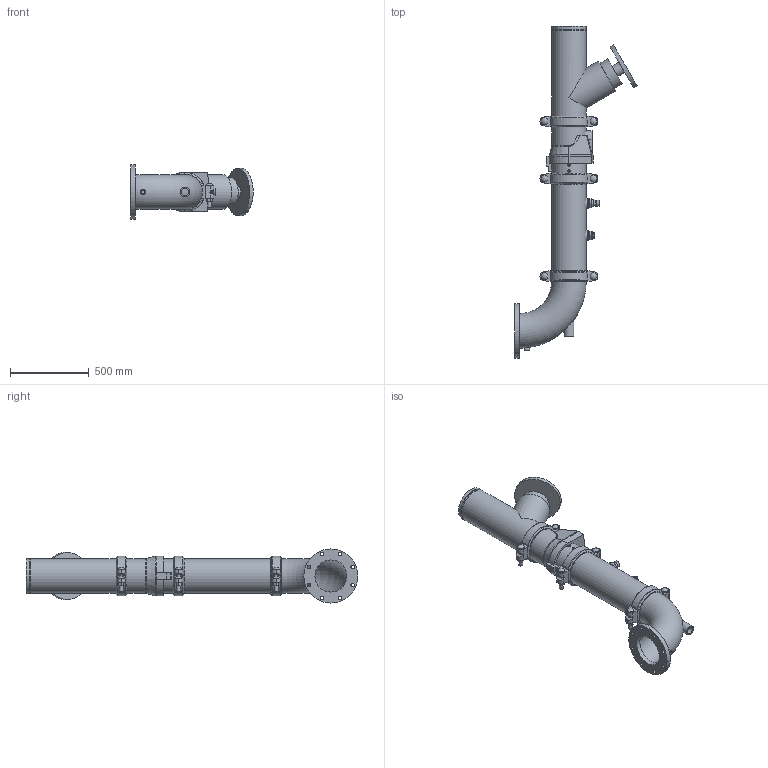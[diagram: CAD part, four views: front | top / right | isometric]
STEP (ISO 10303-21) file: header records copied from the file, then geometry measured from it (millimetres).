
FILE_DESCRIPTION(/* description */ ('VIC DVI PUMP DROP HORZ S/383 (OGSxFLG) (S/924-0.75)','CAx-IF Rec.Pracs.---Representation and Presentation of Product Manufacturing Information (PMI)---4.0---2014-10-13'),/* implementation_level */ '2;1');
FILE_NAME(/* name */ 'C:\Users\kkamble\AppData\Roaming\Autodesk\ApplicationPlugins\Victaulic.Temp\A821\CL 150_Series 383 (OGSxFLG)_924 (0.75)_08.0x08.0 (200x200).stp',/* time_stamp */ '2022-03-16T18:47:19+05:00',/* author */ ('kkamble'),/* organization */ ('Victaulic'),/* preprocessor_version */ 'ST-DEVELOPER v17.2',/* originating_system */ 'Autodesk Inventor 2019',/* authorisation */ '');
FILE_SCHEMA (('AP242_MANAGED_MODEL_BASED_3D_ENGINEERING_MIM_LF { 1 0 10303 442 1 1 4 }'));
Length unit declared in the file: inch
Products named in the file (8): 383_924 (0.75)-08.0x08.0; Pipe-08.0; 789-08.0; 177N-08.0; 779-08.0; 924-04.0x0.75; 923-04.0x0.75; 100F-08.0
Assembly tree (9 placements, depth 2):
  383_924 (0.75)-08.0x08.0
    177N-08.0  x3
    Pipe-08.0
    789-08.0
    779-08.0
    924-04.0x0.75
    923-04.0x0.75
    100F-08.0
Bounding box: 774.7 x 2101.85 x 342.9 mm (x, y, z)
Volume: 30427205.9 mm3; surface area: 4072806.9 mm2
Topology: 9 solids, 9 shells, 518 faces, 1354 edges, 908 vertices
Faces by surface type: plane 296, cylinder 176, torus 21, cone 17, sphere 6, bspline 2
Full cylindrical faces by diameter (mm): 13.716 x4, 20.93 x1, 22.352 x8, 23.774 x6, 26.67 x4, 34.29 x1, 38.608 x1, 42.85 x6, 45.974 x4, 48.26 x1, 55.626 x2, 60.96 x1, 76.2 x1, 183.515 x1, 202.717 x5, 206.375 x3, 214.401 x7, 219.075 x18, 299.974 x1, 342.9 x1
Entity records: 11537 total; most frequent: CARTESIAN_POINT 2502, DIRECTION 1855, ORIENTED_EDGE 1688, EDGE_CURVE 844, AXIS2_PLACEMENT_3D 715, VERTEX_POINT 572, LINE 425, VECTOR 425
